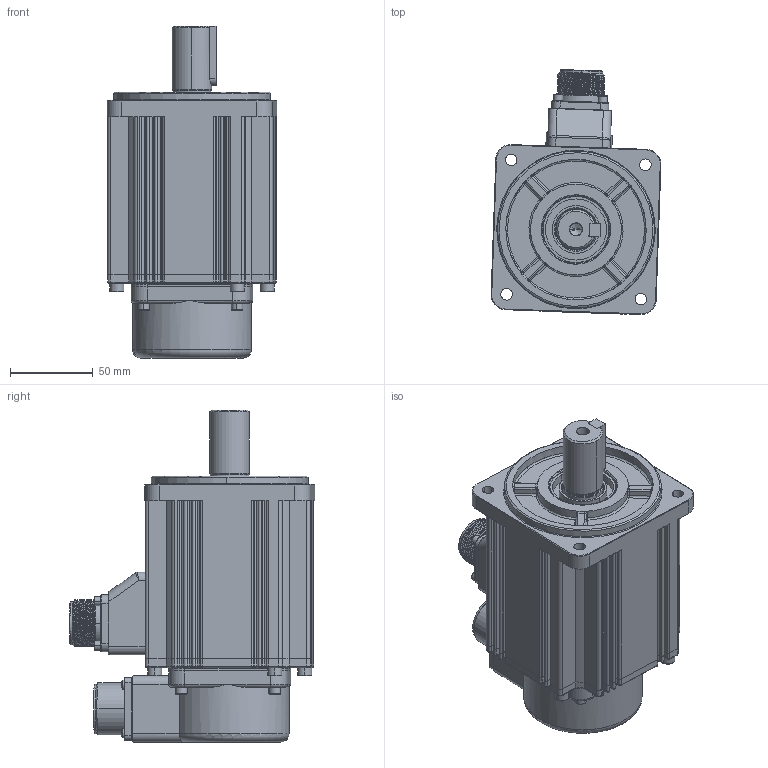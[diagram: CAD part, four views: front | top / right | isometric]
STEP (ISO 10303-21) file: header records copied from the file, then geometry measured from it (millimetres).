
FILE_DESCRIPTION((''),'2;1');
FILE_NAME('IMS20B-10M15C30C-00_ASM','2025-05-20T12:26:12',('admin'),(''),'CREO PARAMETRIC BY PTC INC, 2019080','CREO PARAMETRIC BY PTC INC, 2019080','');
FILE_SCHEMA(('CONFIG_CONTROL_DESIGN'));
Products named in the file (19): 100_JIKE_15C_L48_2_1; 50051-00115_1_1; 18-A6-18FLANGE-CUSTOM-3D_1_1; ISO4762-M3X30-8_8_1_1; 100_DZZJ_15C_ASM_2_ASM_1_ASM; 100-15C_ZHOU_L48_1_1; 100_HDG_1_1; 100_ZZZJ_15C_ASM_1_ASM_1_ASM; 100_FHZ_1_1; CMS3102A20-29PE9-A-3D_1_1; ISO7045-M3X16-4_8_1_1; ISO4762-M4X16-8_8_1_1; 100_FHZ_ASM_1_ASM_1_ASM; ISO4762-M5X16-8_8_1_1; 13000_1_1; IMS20B-10M15C30C_ASM_2_ASM_1_ASM; IMS20B-10M15C30C-00_ASM_1_ASM; C; IMS20B-10M15C30C-00_ASM
Assembly tree (30 placements, depth 5):
  IMS20B-10M15C30C-00_ASM
    IMS20B-10M15C30C-00_ASM_1_ASM
      IMS20B-10M15C30C_ASM_2_ASM_1_ASM
        100_DZZJ_15C_ASM_2_ASM_1_ASM
          100_JIKE_15C_L48_2_1
          50051-00115_1_1
          18-A6-18FLANGE-CUSTOM-3D_1_1
          ISO4762-M3X30-8_8_1_1  x4
        100_ZZZJ_15C_ASM_1_ASM_1_ASM
          100-15C_ZHOU_L48_1_1
          100_HDG_1_1
        100_FHZ_ASM_1_ASM_1_ASM
          100_FHZ_1_1
          CMS3102A20-29PE9-A-3D_1_1
          ISO7045-M3X16-4_8_1_1  x4
          ISO4762-M4X16-8_8_1_1  x4
        ISO4762-M5X16-8_8_1_1  x4
        13000_1_1
    C
Bounding box: 102.78 x 148.37 x 201 mm (x, y, z)
Volume: 1314997.2 mm3; surface area: 188554.6 mm2
Topology: 25 solids, 63 shells, 4216 faces, 11504 edges, 7538 vertices
Faces by surface type: plane 2044, cylinder 903, extrusion 812, torus 205, cone 135, sphere 77, bspline 40
Entity records: 137375 total; most frequent: CARTESIAN_POINT 38269, ORIENTED_EDGE 21514, DIRECTION 18324, EDGE_CURVE 10803, VECTOR 7310, VERTEX_POINT 7148, LINE 6498, AXIS2_PLACEMENT_3D 5507
